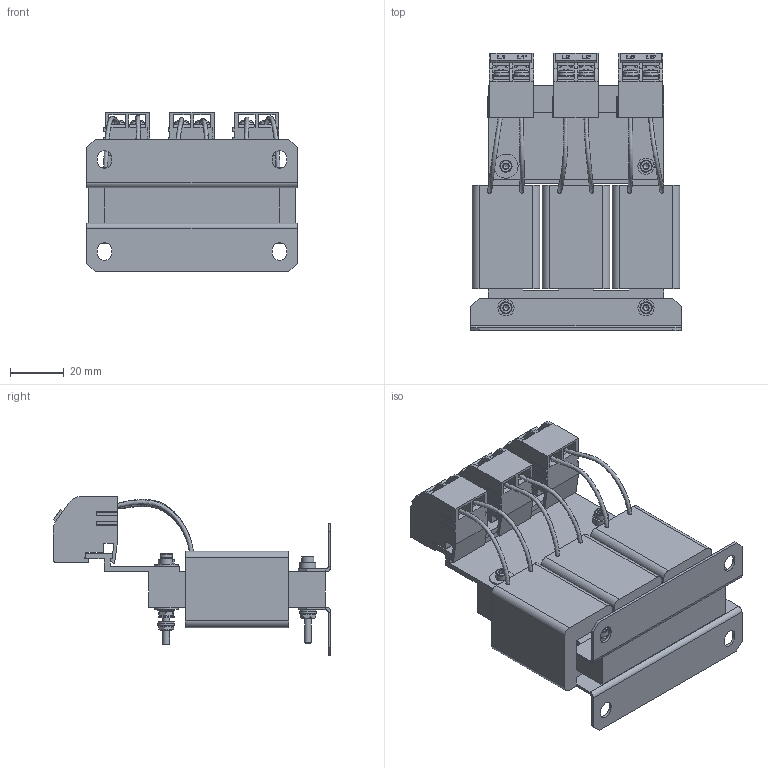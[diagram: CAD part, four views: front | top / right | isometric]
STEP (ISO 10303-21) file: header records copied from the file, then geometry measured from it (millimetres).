
FILE_DESCRIPTION(/* description */ ('raw material description'),/* implementation_level */ '2;1');
FILE_NAME(/* name */ 'P:\Construction\Filter_Marketing\RWK\RWK3044_RWK3062\RWK3044-2-88-E0XXX.stp',/* time_stamp */ '2018-08-27T09:38:09+02:00',/* author */ ('Erika.Jenzer'),/* organization */ ('Schaffner EMV AG'),/* preprocessor_version */ 'ST-DEVELOPER v16.5',/* originating_system */ 'Autodesk Inventor 2017',/* authorisation */ '');
FILE_SCHEMA (('AUTOMOTIVE_DESIGN { 1 0 10303 214 3 1 1 }'));
Products named in the file (1): RWK3044-2-88-E0XXX
Bounding box: 78 x 103.05 x 59.2 mm (x, y, z)
Volume: 130819.4 mm3; surface area: 50653.5 mm2
Topology: 1 solids, 9 shells, 1811 faces, 4934 edges, 3196 vertices
Faces by surface type: plane 1464, cylinder 201, bspline 62, cone 39, sphere 24, torus 21
Full cylindrical faces by diameter (mm): 0.005 x6, 1.5 x6, 2.5 x13, 2.7 x8, 2.9 x4, 3 x6, 3.1 x1, 3.2 x2, 3.5 x3, 3.7 x5, 4.5 x4, 5.7 x6, 6 x9, 9 x2, 13 x1
Entity records: 60954 total; most frequent: CARTESIAN_POINT 14205, ORIENTED_EDGE 9446, DIRECTION 8932, EDGE_CURVE 4723, LINE 3454, VECTOR 3454, VERTEX_POINT 3121, AXIS2_PLACEMENT_3D 2739
